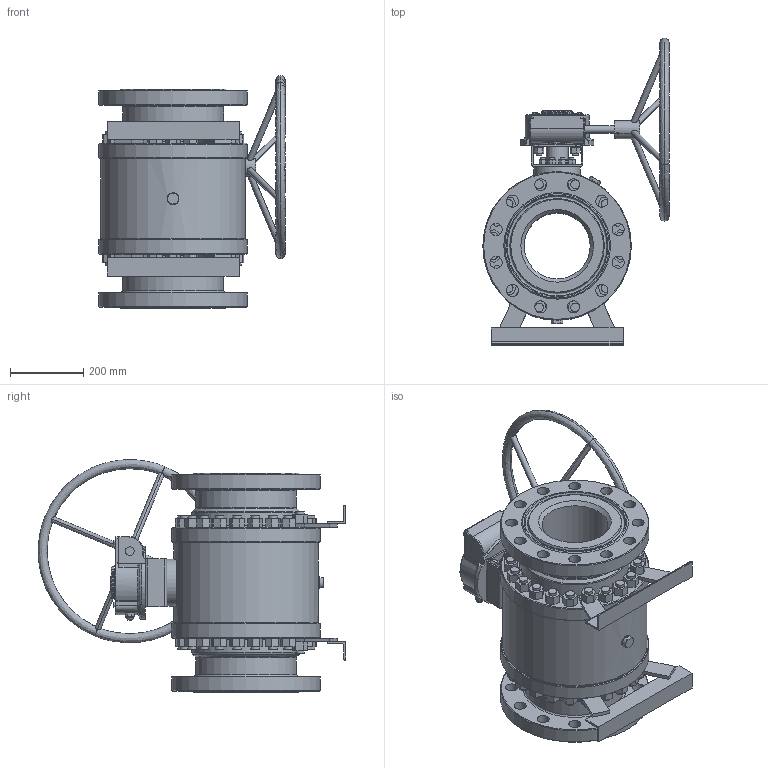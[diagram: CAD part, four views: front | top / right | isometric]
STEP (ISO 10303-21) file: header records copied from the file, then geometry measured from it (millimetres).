
FILE_DESCRIPTION(('STEP AP214'), '1');
FILE_NAME('ÀÐ.200.063.27-Ð Êðàí', '2016-08-16T08:23:13', (''), (''), 'ASCON STEP Converter 1.3', 'ASCON Math Kernel', '');
FILE_SCHEMA(('AUTOMOTIVE_DESIGN { 1 0 10303 214 3 1 1}'));
Length unit declared in the file: millimetre
Products named in the file (1): 2
Bounding box: 508 x 838.97 x 634.7 mm (x, y, z)
Volume: 745381.6 mm3; surface area: 2454981.8 mm2
Topology: 30 solids, 33 shells, 1979 faces, 4984 edges, 3171 vertices
Faces by surface type: plane 1051, cylinder 439, cone 226, torus 173, bspline 56, sphere 34
Full cylindrical faces by diameter (mm): 4.134 x2, 4.2 x2, 6 x1, 6.647 x4, 8 x4, 9 x4, 10.106 x8, 12 x2, 13 x8, 16 x5, 17.294 x8, 18 x8, 20 x2, 22 x2, 23.75 x2, 24 x51, 26 x2, 27 x2, 30 x2, 32 x2, 33 x24, 43 x1, 60 x1, 72.15 x2, 74 x2, 75 x4, 79 x1, 86 x1, 88 x1, 92.5 x1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
Entity records: 91074 total; most frequent: CARTESIAN_POINT 44986, ORIENTED_EDGE 9858, DIRECTION 9015, EDGE_CURVE 4932, AXIS2_PLACEMENT_3D 3235, VERTEX_POINT 3171, LINE 2545, VECTOR 2545
